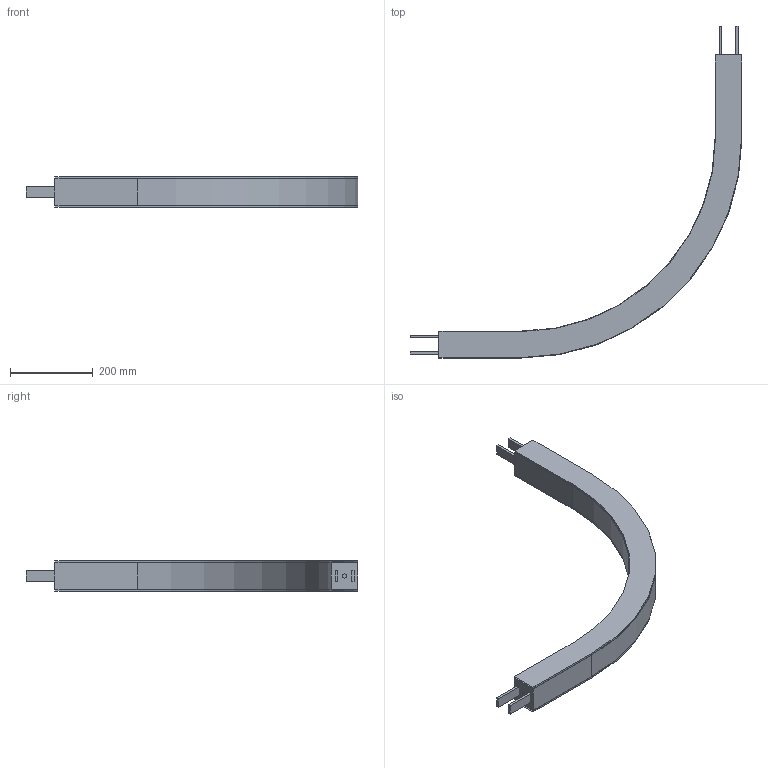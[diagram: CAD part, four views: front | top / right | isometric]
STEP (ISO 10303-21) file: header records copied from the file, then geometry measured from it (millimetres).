
FILE_DESCRIPTION(/* description */ ('Horizontaler Gleitbogen, 90°, R500'),/* implementation_level */ '2;1');
FILE_NAME(/* name */ 'T:\vdz0\Step Daten Website\modulflex FL-System\Horizontale Gleitbögen\FLBP 90R500_43652.stp',/* time_stamp */ '2024-09-03T09:41:08+02:00',/* author */ ('lzb0'),/* organization */ ('modular automation GmbH'),/* preprocessor_version */ 'ST-DEVELOPER v18.1',/* originating_system */ 'Autodesk Inventor 2021',/* authorisation */ '');
FILE_SCHEMA (('AUTOMOTIVE_DESIGN { 1 0 10303 214 3 1 1 }'));
Length unit declared in the file: millimetre
Products named in the file (1): FLBP 90R500
Bounding box: 802.5 x 802.5 x 73 mm (x, y, z)
Volume: 5015256.4 mm3; surface area: 670758.5 mm2
Topology: 5 solids, 9 shells, 52 faces, 126 edges, 84 vertices
Faces by surface type: plane 44, cylinder 8
Full cylindrical faces by diameter (mm): 10 x2
Entity records: 1596 total; most frequent: CARTESIAN_POINT 270, DIRECTION 250, ORIENTED_EDGE 232, EDGE_CURVE 126, LINE 110, VECTOR 110, VERTEX_POINT 84, AXIS2_PLACEMENT_3D 70
